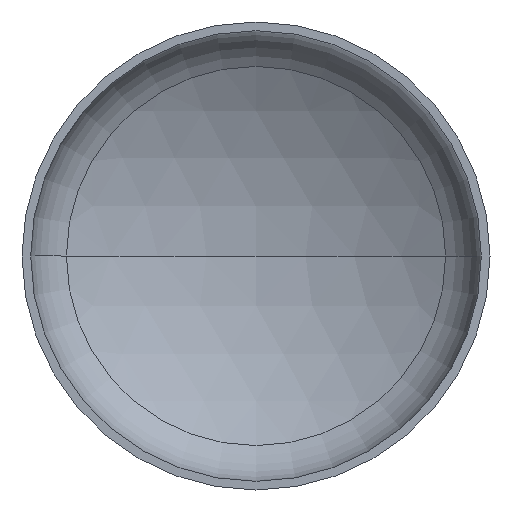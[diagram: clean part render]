
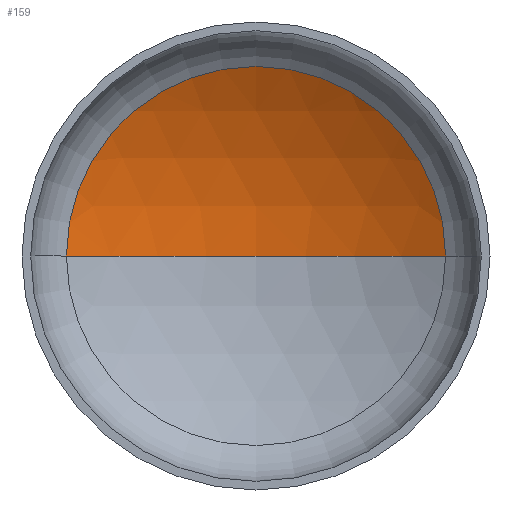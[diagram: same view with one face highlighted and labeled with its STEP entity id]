
A CAD part, front view. The second image highlights one B-rep face of the part: STEP entity #159.
In plain terms, the highlighted spherical face has radius 3600 mm.
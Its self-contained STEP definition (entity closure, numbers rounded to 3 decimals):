
#3 = FACE_OUTER_BOUND ( 'NONE', #7, .T. ) ;
#7 = EDGE_LOOP ( 'NONE', ( #222, #146, #120 ) ) ;
#9 = AXIS2_PLACEMENT_3D ( 'NONE', #130, #105, #133 ) ;
#20 = DIRECTION ( 'NONE',  ( 1., 0., 0. ) ) ;
#22 = DIRECTION ( 'NONE',  ( 0., -1., 0. ) ) ;
#25 = AXIS2_PLACEMENT_3D ( 'NONE', #182, #82, #209 ) ;
#29 = CARTESIAN_POINT ( 'NONE',  ( 0., 699.311, 0. ) ) ;
#33 = AXIS2_PLACEMENT_3D ( 'NONE', #348, #370, #226 ) ;
#37 = AXIS2_PLACEMENT_3D ( 'NONE', #29, #22, #20 ) ;
#66 = VERTEX_POINT ( 'NONE', #319 ) ;
#71 = VERTEX_POINT ( 'NONE', #311 ) ;
#82 = DIRECTION ( 'NONE',  ( 0., 0., -1. ) ) ;
#83 = CARTESIAN_POINT ( 'NONE',  ( 0., 1194.968, 0. ) ) ;
#84 = CIRCLE ( 'NONE', #9, 3600. ) ;
#102 = EDGE_CURVE ( 'NONE', #71, #66, #292, .T. ) ;
#105 = DIRECTION ( 'NONE',  ( 0., 0., 1. ) ) ;
#111 = EDGE_CURVE ( 'NONE', #341, #71, #140, .T. ) ;
#120 = ORIENTED_EDGE ( 'NONE', *, *, #102, .T. ) ;
#130 = CARTESIAN_POINT ( 'NONE',  ( 0., -2405.032, 0. ) ) ;
#133 = DIRECTION ( 'NONE',  ( 1., 0., 0. ) ) ;
#140 = CIRCLE ( 'NONE', #33, 3600. ) ;
#146 = ORIENTED_EDGE ( 'NONE', *, *, #111, .T. ) ;
#159 = ADVANCED_FACE ( 'NONE', ( #3 ), #227, .F. ) ;
#182 = CARTESIAN_POINT ( 'NONE',  ( 0., -2405.032, 0. ) ) ;
#209 = DIRECTION ( 'NONE',  ( -1., 0., 0. ) ) ;
#222 = ORIENTED_EDGE ( 'NONE', *, *, #360, .F. ) ;
#226 = DIRECTION ( 'NONE',  ( -1., 0., 0. ) ) ;
#227 = SPHERICAL_SURFACE ( 'NONE', #25, 3600. ) ;
#292 = CIRCLE ( 'NONE', #37, 1822.926 ) ;
#311 = CARTESIAN_POINT ( 'NONE',  ( 1822.926, 699.311, 0. ) ) ;
#319 = CARTESIAN_POINT ( 'NONE',  ( -1822.926, 699.311, 0. ) ) ;
#341 = VERTEX_POINT ( 'NONE', #83 ) ;
#348 = CARTESIAN_POINT ( 'NONE',  ( 0., -2405.032, 0. ) ) ;
#360 = EDGE_CURVE ( 'NONE', #341, #66, #84, .T. ) ;
#370 = DIRECTION ( 'NONE',  ( 0., 0., -1. ) ) ;
